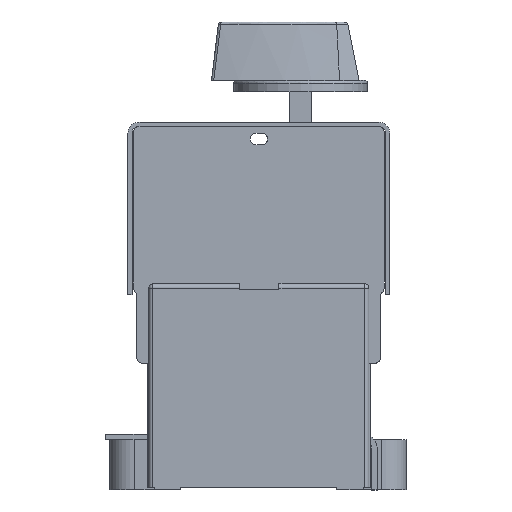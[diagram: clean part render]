
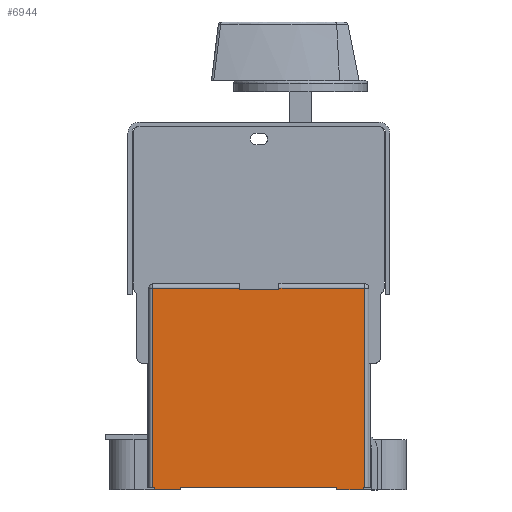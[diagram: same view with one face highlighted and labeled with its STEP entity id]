
A CAD part, left-side view. The second image highlights one B-rep face of the part: STEP entity #6944.
In plain terms, the highlighted planar face has unit normal (-1, 0, 0).
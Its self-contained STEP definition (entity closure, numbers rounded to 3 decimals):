
#742=PLANE('',#21691);
#1692=FACE_OUTER_BOUND('',#8775,.T.);
#3490=LINE('',#32534,#5596);
#3492=LINE('',#32540,#5598);
#3562=LINE('',#32852,#5668);
#3578=LINE('',#32932,#5684);
#3613=LINE('',#33031,#5719);
#3618=LINE('',#33043,#5724);
#3620=LINE('',#33046,#5726);
#3626=LINE('',#33059,#5732);
#3763=LINE('',#33343,#5869);
#3764=LINE('',#33347,#5870);
#3765=LINE('',#33348,#5871);
#3766=LINE('',#33350,#5872);
#3767=LINE('',#33352,#5873);
#3768=LINE('',#33353,#5874);
#3769=LINE('',#33354,#5875);
#3770=LINE('',#33356,#5876);
#5596=VECTOR('',#26195,1.);
#5598=VECTOR('',#26201,1.);
#5668=VECTOR('',#26489,1.);
#5684=VECTOR('',#26601,1.);
#5719=VECTOR('',#26706,1.);
#5724=VECTOR('',#26713,1.);
#5726=VECTOR('',#26717,1.);
#5732=VECTOR('',#26725,1.);
#5869=VECTOR('',#26978,1.);
#5870=VECTOR('',#26983,1.);
#5871=VECTOR('',#26984,1.);
#5872=VECTOR('',#26985,1.);
#5873=VECTOR('',#26986,1.);
#5874=VECTOR('',#26987,1.);
#5875=VECTOR('',#26988,1.);
#5876=VECTOR('',#26989,1.);
#6944=ADVANCED_FACE('',(#1692),#742,.F.);
#8775=EDGE_LOOP('',(#13952,#13953,#13954,#13955,#13956,#13957,#13958,#13959,
#13960,#13961,#13962,#13963,#13964,#13965,#13966,#13967));
#13952=ORIENTED_EDGE('',*,*,#19263,.F.);
#13953=ORIENTED_EDGE('',*,*,#19053,.T.);
#13954=ORIENTED_EDGE('',*,*,#18877,.T.);
#13955=ORIENTED_EDGE('',*,*,#19265,.F.);
#13956=ORIENTED_EDGE('',*,*,#18880,.T.);
#13957=ORIENTED_EDGE('',*,*,#19013,.T.);
#13958=ORIENTED_EDGE('',*,*,#19266,.T.);
#13959=ORIENTED_EDGE('',*,*,#19267,.T.);
#13960=ORIENTED_EDGE('',*,*,#19268,.F.);
#13961=ORIENTED_EDGE('',*,*,#19100,.F.);
#13962=ORIENTED_EDGE('',*,*,#19105,.T.);
#13963=ORIENTED_EDGE('',*,*,#19269,.T.);
#13964=ORIENTED_EDGE('',*,*,#19113,.F.);
#13965=ORIENTED_EDGE('',*,*,#19107,.F.);
#13966=ORIENTED_EDGE('',*,*,#19270,.T.);
#13967=ORIENTED_EDGE('',*,*,#19271,.T.);
#16237=VERTEX_POINT('',#32533);
#16238=VERTEX_POINT('',#32535);
#16240=VERTEX_POINT('',#32541);
#16241=VERTEX_POINT('',#32542);
#16329=VERTEX_POINT('',#32847);
#16330=VERTEX_POINT('',#32851);
#16376=VERTEX_POINT('',#33032);
#16377=VERTEX_POINT('',#33033);
#16381=VERTEX_POINT('',#33042);
#16382=VERTEX_POINT('',#33047);
#16383=VERTEX_POINT('',#33048);
#16386=VERTEX_POINT('',#33056);
#16477=VERTEX_POINT('',#33344);
#16478=VERTEX_POINT('',#33349);
#16479=VERTEX_POINT('',#33351);
#16480=VERTEX_POINT('',#33355);
#18877=EDGE_CURVE('',#16238,#16237,#3490,.T.);
#18880=EDGE_CURVE('',#16240,#16241,#3492,.T.);
#19013=EDGE_CURVE('',#16241,#16330,#3562,.T.);
#19053=EDGE_CURVE('',#16329,#16238,#3578,.T.);
#19100=EDGE_CURVE('',#16376,#16377,#3613,.T.);
#19105=EDGE_CURVE('',#16376,#16381,#3618,.T.);
#19107=EDGE_CURVE('',#16382,#16383,#3620,.T.);
#19113=EDGE_CURVE('',#16383,#16386,#3626,.T.);
#19263=EDGE_CURVE('',#16329,#16477,#3763,.T.);
#19265=EDGE_CURVE('',#16240,#16237,#3764,.T.);
#19266=EDGE_CURVE('',#16330,#16478,#3765,.T.);
#19267=EDGE_CURVE('',#16478,#16479,#3766,.T.);
#19268=EDGE_CURVE('',#16377,#16479,#3767,.T.);
#19269=EDGE_CURVE('',#16381,#16386,#3768,.T.);
#19270=EDGE_CURVE('',#16382,#16480,#3769,.T.);
#19271=EDGE_CURVE('',#16480,#16477,#3770,.T.);
#21691=AXIS2_PLACEMENT_3D('',#33357,#26990,#26991);
#26195=DIRECTION('',(0.,0.,-1.));
#26201=DIRECTION('',(0.,0.,1.));
#26489=DIRECTION('',(0.,1.,0.));
#26601=DIRECTION('',(0.,1.,0.));
#26706=DIRECTION('',(0.,1.,0.));
#26713=DIRECTION('',(0.,0.,1.));
#26717=DIRECTION('',(0.,1.,0.));
#26725=DIRECTION('',(0.,0.,1.));
#26978=DIRECTION('',(0.,0.,-1.));
#26983=DIRECTION('',(0.,-1.,0.));
#26984=DIRECTION('',(0.,0.,-1.));
#26985=DIRECTION('',(0.,-1.,0.));
#26986=DIRECTION('',(0.,0.,1.));
#26987=DIRECTION('',(0.,-1.,0.));
#26988=DIRECTION('',(0.,0.,1.));
#26989=DIRECTION('',(0.,-1.,0.));
#26990=DIRECTION('',(1.,0.,0.));
#26991=DIRECTION('',(0.,0.,-1.));
#32533=CARTESIAN_POINT('',(-69.,-31.985,67.));
#32534=CARTESIAN_POINT('',(-69.,-31.985,69.1));
#32535=CARTESIAN_POINT('',(-69.,-31.985,67.6));
#32540=CARTESIAN_POINT('',(-69.,-17.985,69.1));
#32541=CARTESIAN_POINT('',(-69.,-17.985,67.));
#32542=CARTESIAN_POINT('',(-69.,-17.985,67.6));
#32847=CARTESIAN_POINT('',(-69.,-62.735,67.6));
#32851=CARTESIAN_POINT('',(-69.,13.265,67.6));
#32852=CARTESIAN_POINT('',(-69.,13.265,67.6));
#32932=CARTESIAN_POINT('',(-69.,13.265,67.6));
#33031=CARTESIAN_POINT('',(-69.,3.265,-4.9));
#33032=CARTESIAN_POINT('',(-69.,3.265,-4.9));
#33033=CARTESIAN_POINT('',(-69.,12.765,-4.9));
#33042=CARTESIAN_POINT('',(-69.,3.265,-3.9));
#33043=CARTESIAN_POINT('',(-69.,3.265,-5.9));
#33046=CARTESIAN_POINT('',(-69.,-62.235,-4.9));
#33047=CARTESIAN_POINT('',(-69.,-62.235,-4.9));
#33048=CARTESIAN_POINT('',(-69.,-52.735,-4.9));
#33056=CARTESIAN_POINT('',(-69.,-52.735,-3.9));
#33059=CARTESIAN_POINT('',(-69.,-52.735,-5.9));
#33343=CARTESIAN_POINT('',(-69.,-62.735,69.1));
#33344=CARTESIAN_POINT('',(-69.,-62.735,-3.9));
#33347=CARTESIAN_POINT('',(-69.,12.765,67.));
#33348=CARTESIAN_POINT('',(-69.,13.265,69.1));
#33349=CARTESIAN_POINT('',(-69.,13.265,-3.9));
#33350=CARTESIAN_POINT('',(-69.,-62.235,-3.9));
#33351=CARTESIAN_POINT('',(-69.,12.765,-3.9));
#33352=CARTESIAN_POINT('',(-69.,12.765,-5.9));
#33353=CARTESIAN_POINT('',(-69.,-62.235,-3.9));
#33354=CARTESIAN_POINT('',(-69.,-62.235,-5.9));
#33355=CARTESIAN_POINT('',(-69.,-62.235,-3.9));
#33356=CARTESIAN_POINT('',(-69.,-62.235,-3.9));
#33357=CARTESIAN_POINT('',(-69.,-62.235,69.1));
